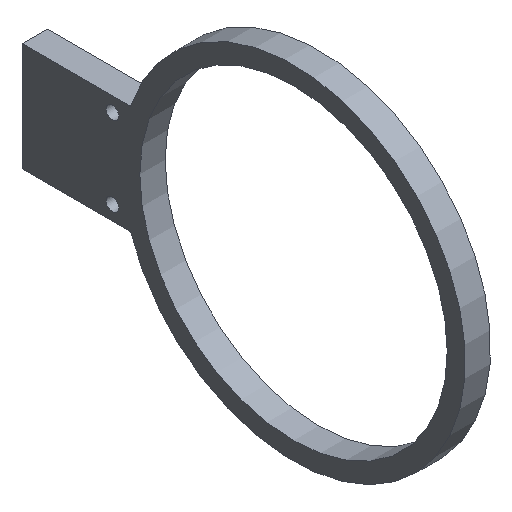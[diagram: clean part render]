
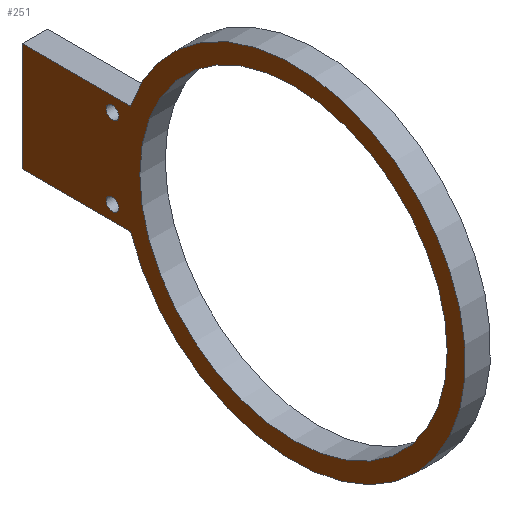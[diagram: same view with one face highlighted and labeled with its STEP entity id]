
A CAD part, isometric view. The second image highlights one B-rep face of the part: STEP entity #251.
In plain terms, the highlighted planar face has unit normal (-1, 0, 0).
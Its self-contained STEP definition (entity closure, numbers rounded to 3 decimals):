
#18=FACE_BOUND('',#57,.T.);
#19=FACE_BOUND('',#58,.T.);
#20=FACE_BOUND('',#59,.T.);
#26=PLANE('',#280);
#40=FACE_OUTER_BOUND('',#56,.T.);
#56=EDGE_LOOP('',(#226,#227,#228,#229));
#57=EDGE_LOOP('',(#230));
#58=EDGE_LOOP('',(#231));
#59=EDGE_LOOP('',(#232));
#71=LINE('',#406,#90);
#77=LINE('',#420,#96);
#78=LINE('',#422,#97);
#90=VECTOR('',#332,10.);
#96=VECTOR('',#348,10.);
#97=VECTOR('',#351,10.);
#99=CIRCLE('',#256,1.75);
#101=CIRCLE('',#259,1.75);
#110=CIRCLE('',#274,42.5);
#111=CIRCLE('',#276,47.5);
#113=VERTEX_POINT('',#360);
#115=VERTEX_POINT('',#366);
#129=VERTEX_POINT('',#403);
#130=VERTEX_POINT('',#405);
#131=VERTEX_POINT('',#410);
#132=VERTEX_POINT('',#414);
#133=VERTEX_POINT('',#416);
#136=EDGE_CURVE('',#113,#113,#99,.T.);
#139=EDGE_CURVE('',#115,#115,#101,.T.);
#157=EDGE_CURVE('',#130,#129,#71,.T.);
#160=EDGE_CURVE('',#131,#131,#110,.T.);
#163=EDGE_CURVE('',#133,#132,#111,.T.);
#165=EDGE_CURVE('',#129,#133,#77,.T.);
#166=EDGE_CURVE('',#132,#130,#78,.T.);
#226=ORIENTED_EDGE('',*,*,#166,.T.);
#227=ORIENTED_EDGE('',*,*,#157,.T.);
#228=ORIENTED_EDGE('',*,*,#165,.T.);
#229=ORIENTED_EDGE('',*,*,#163,.T.);
#230=ORIENTED_EDGE('',*,*,#136,.T.);
#231=ORIENTED_EDGE('',*,*,#139,.T.);
#232=ORIENTED_EDGE('',*,*,#160,.T.);
#251=ADVANCED_FACE('',(#40,#18,#19,#20),#26,.F.);
#256=AXIS2_PLACEMENT_3D('',#362,#288,#289);
#259=AXIS2_PLACEMENT_3D('',#368,#295,#296);
#274=AXIS2_PLACEMENT_3D('',#411,#337,#338);
#276=AXIS2_PLACEMENT_3D('',#417,#343,#344);
#280=AXIS2_PLACEMENT_3D('',#424,#354,#355);
#288=DIRECTION('center_axis',(1.,0.,0.));
#289=DIRECTION('ref_axis',(0.,1.,0.));
#295=DIRECTION('center_axis',(1.,0.,0.));
#296=DIRECTION('ref_axis',(0.,1.,0.));
#332=DIRECTION('',(0.,0.,-1.));
#337=DIRECTION('center_axis',(1.,0.,0.));
#338=DIRECTION('ref_axis',(0.,1.,0.));
#343=DIRECTION('center_axis',(-1.,0.,0.));
#344=DIRECTION('ref_axis',(0.,0.949,0.316));
#348=DIRECTION('',(0.,-1.,0.));
#351=DIRECTION('',(0.,1.,0.));
#354=DIRECTION('center_axis',(1.,0.,0.));
#355=DIRECTION('ref_axis',(0.,1.,0.));
#360=CARTESIAN_POINT('',(-7.,-18.95,11.));
#362=CARTESIAN_POINT('Origin',(-7.,-17.2,11.));
#366=CARTESIAN_POINT('',(-7.,-18.95,-11.));
#368=CARTESIAN_POINT('Origin',(-7.,-17.2,-11.));
#403=CARTESIAN_POINT('',(-7.,7.8,-15.));
#405=CARTESIAN_POINT('',(-7.,7.8,15.));
#406=CARTESIAN_POINT('',(-7.,7.8,15.));
#410=CARTESIAN_POINT('',(-7.,-109.769,0.));
#411=CARTESIAN_POINT('Origin',(-7.,-67.269,0.));
#414=CARTESIAN_POINT('',(-7.,-22.2,15.));
#416=CARTESIAN_POINT('',(-7.,-22.2,-15.));
#417=CARTESIAN_POINT('Origin',(-7.,-67.269,0.));
#420=CARTESIAN_POINT('',(-7.,7.8,-15.));
#422=CARTESIAN_POINT('',(-7.,-22.2,15.));
#424=CARTESIAN_POINT('Origin',(-7.,-53.485,0.));
